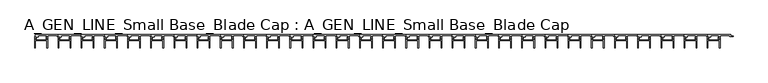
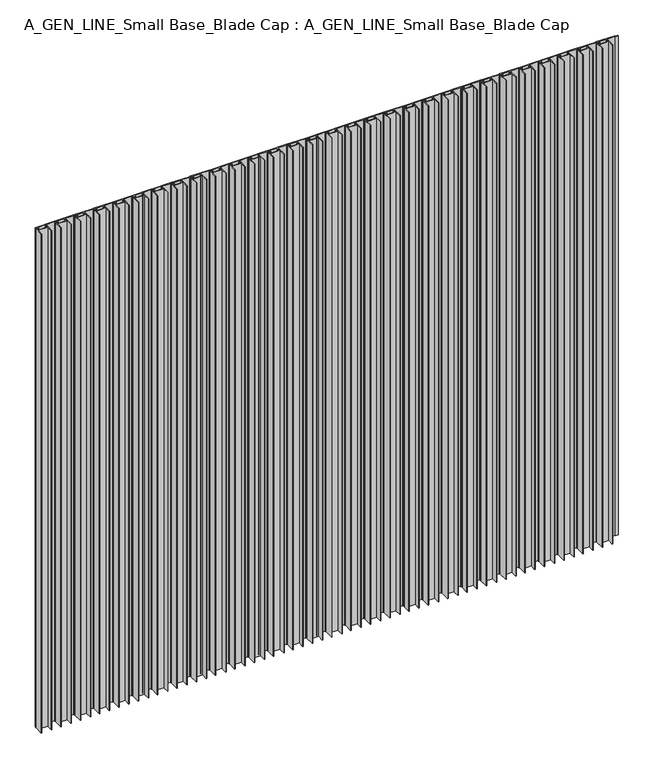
"""IFC4 building model written with IfcOpenShell, lengths in millimetres: proxy geometry, A_GEN_LINE_Small Base_Blade Cap : A_GEN_LINE_Small Base_Blade Cap."""

from ifc_helpers import new_model, si_unit, origin, origin_with_axes, place, context, project, spatial, polyline, outline, extrude, source, transform, mapped, element, save


def a_gen_line_small_base_blade_cap_a_gen_line_small_base_blade_af6c0902(model_context):
    return source(origin(), model_context, "Body", "SweptSolid", [
        extrude(outline(polyline([(1594.5994542, -32.0289818), (1594.5994542, -6.1), (1596.8241714, -6.1), (1596.8241714, -8.3419727), (1595.5177746, -8.7617834), (1595.5177746, -12.5079436), (1623.6811338, -12.5079436), (1623.6811338, -8.7374539), (1622.4504472, -8.3419727), (1622.4504472, -6.1), (1624.5994542, -6.1), (1624.5994542, -32.0289818), (1623.1994542, -32.0289818), (1623.1994542, -13.9079436), (1595.9994542, -13.9079436), (1595.9994542, -32.0289818), (1594.5994542, -32.0289818)])), origin_with_axes(), (0.0, 0.0, 1.0), 1500.0),
        extrude(outline(polyline([(1539.5989548, -32.0289818), (1539.5989548, -6.1), (1541.823672, -6.1), (1541.823672, -8.3419727), (1540.5172752, -8.7617834), (1540.5172752, -12.5079436), (1568.6806344, -12.5079436), (1568.6806344, -8.7374539), (1567.4499478, -8.3419727), (1567.4499478, -6.1), (1569.5989548, -6.1), (1569.5989548, -32.0289818), (1568.1989548, -32.0289818), (1568.1989548, -13.9079436), (1540.9989548, -13.9079436), (1540.9989548, -32.0289818), (1539.5989548, -32.0289818)])), origin_with_axes(), (0.0, 0.0, 1.0), 1500.0),
        extrude(outline(polyline([(1484.5984554, -32.0289818), (1484.5984554, -6.1), (1486.8231726, -6.1), (1486.8231726, -8.3419727), (1485.5167759, -8.7617834), (1485.5167759, -12.5079436), (1513.680135, -12.5079436), (1513.680135, -8.7374539), (1512.4494485, -8.3419727), (1512.4494485, -6.1), (1514.5984554, -6.1), (1514.5984554, -32.0289818), (1513.1984554, -32.0289818), (1513.1984554, -13.9079436), (1485.9984554, -13.9079436), (1485.9984554, -32.0289818), (1484.5984554, -32.0289818)])), origin_with_axes(), (0.0, 0.0, 1.0), 1500.0),
        extrude(outline(polyline([(1429.597956, -32.0289818), (1429.597956, -6.1), (1431.8226732, -6.1), (1431.8226732, -8.3419727), (1430.5162765, -8.7617834), (1430.5162765, -12.5079436), (1458.6796356, -12.5079436), (1458.6796356, -8.7374539), (1457.4489491, -8.3419727), (1457.4489491, -6.1), (1459.597956, -6.1), (1459.597956, -32.0289818), (1458.197956, -32.0289818), (1458.197956, -13.9079436), (1430.997956, -13.9079436), (1430.997956, -32.0289818), (1429.597956, -32.0289818)])), origin_with_axes(), (0.0, 0.0, 1.0), 1500.0),
        extrude(outline(polyline([(1374.5974566, -32.0289818), (1374.5974566, -6.1), (1376.8221738, -6.1), (1376.8221738, -8.3419727), (1375.5157771, -8.7617834), (1375.5157771, -12.5079436), (1403.6791362, -12.5079436), (1403.6791362, -8.7374539), (1402.4484497, -8.3419727), (1402.4484497, -6.1), (1404.5974566, -6.1), (1404.5974566, -32.0289818), (1403.1974566, -32.0289818), (1403.1974566, -13.9079436), (1375.9974566, -13.9079436), (1375.9974566, -32.0289818), (1374.5974566, -32.0289818)])), origin_with_axes(), (0.0, 0.0, 1.0), 1500.0),
        extrude(outline(polyline([(1319.5969572, -32.0289818), (1319.5969572, -6.1), (1321.8216744, -6.1), (1321.8216744, -8.3419727), (1320.5152777, -8.7617834), (1320.5152777, -12.5079436), (1348.6786368, -12.5079436), (1348.6786368, -8.7374539), (1347.4479503, -8.3419727), (1347.4479503, -6.1), (1349.5969572, -6.1), (1349.5969572, -32.0289818), (1348.1969572, -32.0289818), (1348.1969572, -13.9079436), (1320.9969572, -13.9079436), (1320.9969572, -32.0289818), (1319.5969572, -32.0289818)])), origin_with_axes(), (0.0, 0.0, 1.0), 1500.0),
        extrude(outline(polyline([(1264.5964579, -32.0289818), (1264.5964579, -6.1), (1266.821175, -6.1), (1266.821175, -8.3419727), (1265.5147783, -8.7617834), (1265.5147783, -12.5079436), (1293.6781374, -12.5079436), (1293.6781374, -8.7374539), (1292.4474509, -8.3419727), (1292.4474509, -6.1), (1294.5964579, -6.1), (1294.5964579, -32.0289818), (1293.1964579, -32.0289818), (1293.1964579, -13.9079436), (1265.9964579, -13.9079436), (1265.9964579, -32.0289818), (1264.5964579, -32.0289818)])), origin_with_axes(), (0.0, 0.0, 1.0), 1500.0),
        extrude(outline(polyline([(1209.5959585, -32.0289818), (1209.5959585, -6.1), (1211.8206756, -6.1), (1211.8206756, -8.3419727), (1210.5142789, -8.7617834), (1210.5142789, -12.5079436), (1238.677638, -12.5079436), (1238.677638, -8.7374539), (1237.4469515, -8.3419727), (1237.4469515, -6.1), (1239.5959585, -6.1), (1239.5959585, -32.0289818), (1238.1959585, -32.0289818), (1238.1959585, -13.9079436), (1210.9959585, -13.9079436), (1210.9959585, -32.0289818), (1209.5959585, -32.0289818)])), origin_with_axes(), (0.0, 0.0, 1.0), 1500.0),
        extrude(outline(polyline([(1595.0, 0.0), (1649.5728944, 0.0), (1649.5728944, -2.85), (1655.5728944, -2.85), (1655.5728944, -4.2), (1648.0545393, -4.2), (1648.0545393, -2.4), (1624.5849719, -2.4), (1624.5849719, -6.1021884), (1623.4699984, -6.1021884), (1621.8814326, -8.4994005), (1623.1433665, -8.4994005), (1623.1433665, -10.4818695), (1620.9408405, -10.4818695), (1620.9408405, -5.6343123), (1623.0399616, -2.4), (1602.2195527, -2.4), (1602.2195527, -6.1), (1598.2291033, -6.1), (1598.2291033, -10.4818695), (1596.0265772, -10.4818695), (1596.0265772, -8.4994005), (1597.2885111, -8.4994005), (1595.6999453, -6.1021884), (1594.6137598, -6.1021884), (1594.6137598, -4.9), (1601.0195527, -4.9), (1601.0195527, -2.7), (1595.0, -2.7), (1595.0, 0.0)])), origin_with_axes(), (0.0, 0.0, 1.0), 1500.0),
        extrude(outline(polyline([(1540.0, 0.0), (1594.5728944, 0.0), (1594.5728944, -2.85), (1600.5728944, -2.85), (1600.5728944, -4.2), (1593.0545393, -4.2), (1593.0545393, -2.4), (1569.5849719, -2.4), (1569.5849719, -6.1021884), (1568.4699984, -6.1021884), (1566.8814326, -8.4994005), (1568.1433665, -8.4994005), (1568.1433665, -10.4818695), (1565.9408405, -10.4818695), (1565.9408405, -5.6343123), (1568.0399616, -2.4), (1547.2195527, -2.4), (1547.2195527, -6.1), (1543.2291033, -6.1), (1543.2291033, -10.4818695), (1541.0265772, -10.4818695), (1541.0265772, -8.4994005), (1542.2885111, -8.4994005), (1540.6999453, -6.1021884), (1539.6137598, -6.1021884), (1539.6137598, -4.9), (1546.0195527, -4.9), (1546.0195527, -2.7), (1540.0, -2.7), (1540.0, 0.0)])), origin_with_axes(), (0.0, 0.0, 1.0), 1500.0),
        extrude(outline(polyline([(1485.0, 0.0), (1539.5728944, 0.0), (1539.5728944, -2.85), (1545.5728944, -2.85), (1545.5728944, -4.2), (1538.0545393, -4.2), (1538.0545393, -2.4), (1514.5849719, -2.4), (1514.5849719, -6.1021884), (1513.4699984, -6.1021884), (1511.8814326, -8.4994005), (1513.1433665, -8.4994005), (1513.1433665, -10.4818695), (1510.9408405, -10.4818695), (1510.9408405, -5.6343123), (1513.0399616, -2.4), (1492.2195527, -2.4), (1492.2195527, -6.1), (1488.2291033, -6.1), (1488.2291033, -10.4818695), (1486.0265772, -10.4818695), (1486.0265772, -8.4994005), (1487.2885111, -8.4994005), (1485.6999453, -6.1021884), (1484.6137598, -6.1021884), (1484.6137598, -4.9), (1491.0195527, -4.9), (1491.0195527, -2.7), (1485.0, -2.7), (1485.0, 0.0)])), origin_with_axes(), (0.0, 0.0, 1.0), 1500.0),
        extrude(outline(polyline([(1430.0, 0.0), (1484.5728944, 0.0), (1484.5728944, -2.85), (1490.5728944, -2.85), (1490.5728944, -4.2), (1483.0545393, -4.2), (1483.0545393, -2.4), (1459.5849719, -2.4), (1459.5849719, -6.1021884), (1458.4699984, -6.1021884), (1456.8814326, -8.4994005), (1458.1433665, -8.4994005), (1458.1433665, -10.4818695), (1455.9408405, -10.4818695), (1455.9408405, -5.6343123), (1458.0399616, -2.4), (1437.2195527, -2.4), (1437.2195527, -6.1), (1433.2291033, -6.1), (1433.2291033, -10.4818695), (1431.0265772, -10.4818695), (1431.0265772, -8.4994005), (1432.2885111, -8.4994005), (1430.6999453, -6.1021884), (1429.6137598, -6.1021884), (1429.6137598, -4.9), (1436.0195527, -4.9), (1436.0195527, -2.7), (1430.0, -2.7), (1430.0, 0.0)])), origin_with_axes(), (0.0, 0.0, 1.0), 1500.0),
        extrude(outline(polyline([(1375.0, 0.0), (1429.5728944, 0.0), (1429.5728944, -2.85), (1435.5728944, -2.85), (1435.5728944, -4.2), (1428.0545393, -4.2), (1428.0545393, -2.4), (1404.5849719, -2.4), (1404.5849719, -6.1021884), (1403.4699984, -6.1021884), (1401.8814326, -8.4994005), (1403.1433665, -8.4994005), (1403.1433665, -10.4818695), (1400.9408405, -10.4818695), (1400.9408405, -5.6343123), (1403.0399616, -2.4), (1382.2195527, -2.4), (1382.2195527, -6.1), (1378.2291033, -6.1), (1378.2291033, -10.4818695), (1376.0265772, -10.4818695), (1376.0265772, -8.4994005), (1377.2885111, -8.4994005), (1375.6999453, -6.1021884), (1374.6137598, -6.1021884), (1374.6137598, -4.9), (1381.0195527, -4.9), (1381.0195527, -2.7), (1375.0, -2.7), (1375.0, 0.0)])), origin_with_axes(), (0.0, 0.0, 1.0), 1500.0),
        extrude(outline(polyline([(1320.0, 0.0), (1374.5728944, 0.0), (1374.5728944, -2.85), (1380.5728944, -2.85), (1380.5728944, -4.2), (1373.0545393, -4.2), (1373.0545393, -2.4), (1349.5849719, -2.4), (1349.5849719, -6.1021884), (1348.4699984, -6.1021884), (1346.8814326, -8.4994005), (1348.1433665, -8.4994005), (1348.1433665, -10.4818695), (1345.9408405, -10.4818695), (1345.9408405, -5.6343123), (1348.0399616, -2.4), (1327.2195527, -2.4), (1327.2195527, -6.1), (1323.2291033, -6.1), (1323.2291033, -10.4818695), (1321.0265772, -10.4818695), (1321.0265772, -8.4994005), (1322.2885111, -8.4994005), (1320.6999453, -6.1021884), (1319.6137598, -6.1021884), (1319.6137598, -4.9), (1326.0195527, -4.9), (1326.0195527, -2.7), (1320.0, -2.7), (1320.0, 0.0)])), origin_with_axes(), (0.0, 0.0, 1.0), 1500.0),
        extrude(outline(polyline([(1265.0, 0.0), (1319.5728944, 0.0), (1319.5728944, -2.85), (1325.5728944, -2.85), (1325.5728944, -4.2), (1318.0545393, -4.2), (1318.0545393, -2.4), (1294.5849719, -2.4), (1294.5849719, -6.1021884), (1293.4699984, -6.1021884), (1291.8814326, -8.4994005), (1293.1433665, -8.4994005), (1293.1433665, -10.4818695), (1290.9408405, -10.4818695), (1290.9408405, -5.6343123), (1293.0399616, -2.4), (1272.2195527, -2.4), (1272.2195527, -6.1), (1268.2291033, -6.1), (1268.2291033, -10.4818695), (1266.0265772, -10.4818695), (1266.0265772, -8.4994005), (1267.2885111, -8.4994005), (1265.6999453, -6.1021884), (1264.6137598, -6.1021884), (1264.6137598, -4.9), (1271.0195527, -4.9), (1271.0195527, -2.7), (1265.0, -2.7), (1265.0, 0.0)])), origin_with_axes(), (0.0, 0.0, 1.0), 1500.0),
        extrude(outline(polyline([(1210.0, 0.0), (1264.5728944, 0.0), (1264.5728944, -2.85), (1270.5728944, -2.85), (1270.5728944, -4.2), (1263.0545393, -4.2), (1263.0545393, -2.4), (1239.5849719, -2.4), (1239.5849719, -6.1021884), (1238.4699984, -6.1021884), (1236.8814326, -8.4994005), (1238.1433665, -8.4994005), (1238.1433665, -10.4818695), (1235.9408405, -10.4818695), (1235.9408405, -5.6343123), (1238.0399616, -2.4), (1217.2195527, -2.4), (1217.2195527, -6.1), (1213.2291033, -6.1), (1213.2291033, -10.4818695), (1211.0265772, -10.4818695), (1211.0265772, -8.4994005), (1212.2885111, -8.4994005), (1210.6999453, -6.1021884), (1209.6137598, -6.1021884), (1209.6137598, -4.9), (1216.0195527, -4.9), (1216.0195527, -2.7), (1210.0, -2.7), (1210.0, 0.0)])), origin_with_axes(), (0.0, 0.0, 1.0), 1500.0),
        extrude(outline(polyline([(1154.5954591, -32.0289818), (1154.5954591, -6.1), (1156.8201762, -6.1), (1156.8201762, -8.3419727), (1155.5137795, -8.7617834), (1155.5137795, -12.5079436), (1183.6771386, -12.5079436), (1183.6771386, -8.7374539), (1182.4464521, -8.3419727), (1182.4464521, -6.1), (1184.5954591, -6.1), (1184.5954591, -32.0289818), (1183.1954591, -32.0289818), (1183.1954591, -13.9079436), (1155.9954591, -13.9079436), (1155.9954591, -32.0289818), (1154.5954591, -32.0289818)])), origin_with_axes(), (0.0, 0.0, 1.0), 1500.0),
        extrude(outline(polyline([(1099.5949597, -32.0289818), (1099.5949597, -6.1), (1101.8196768, -6.1), (1101.8196768, -8.3419727), (1100.5132801, -8.7617834), (1100.5132801, -12.5079436), (1128.6766392, -12.5079436), (1128.6766392, -8.7374539), (1127.4459527, -8.3419727), (1127.4459527, -6.1), (1129.5949597, -6.1), (1129.5949597, -32.0289818), (1128.1949597, -32.0289818), (1128.1949597, -13.9079436), (1100.9949597, -13.9079436), (1100.9949597, -32.0289818), (1099.5949597, -32.0289818)])), origin_with_axes(), (0.0, 0.0, 1.0), 1500.0),
        extrude(outline(polyline([(1044.5944603, -32.0289818), (1044.5944603, -6.1), (1046.8191775, -6.1), (1046.8191775, -8.3419727), (1045.5127807, -8.7617834), (1045.5127807, -12.5079436), (1073.6761399, -12.5079436), (1073.6761399, -8.7374539), (1072.4454533, -8.3419727), (1072.4454533, -6.1), (1074.5944603, -6.1), (1074.5944603, -32.0289818), (1073.1944603, -32.0289818), (1073.1944603, -13.9079436), (1045.9944603, -13.9079436), (1045.9944603, -32.0289818), (1044.5944603, -32.0289818)])), origin_with_axes(), (0.0, 0.0, 1.0), 1500.0),
        extrude(outline(polyline([(989.5939609, -32.0289818), (989.5939609, -6.1), (991.8186781, -6.1), (991.8186781, -8.3419727), (990.5122813, -8.7617834), (990.5122813, -12.5079436), (1018.6756405, -12.5079436), (1018.6756405, -8.7374539), (1017.4449539, -8.3419727), (1017.4449539, -6.1), (1019.5939609, -6.1), (1019.5939609, -32.0289818), (1018.1939609, -32.0289818), (1018.1939609, -13.9079436), (990.9939609, -13.9079436), (990.9939609, -32.0289818), (989.5939609, -32.0289818)])), origin_with_axes(), (0.0, 0.0, 1.0), 1500.0),
        extrude(outline(polyline([(934.5934615, -32.0289818), (934.5934615, -6.1), (936.8181787, -6.1), (936.8181787, -8.3419727), (935.5117819, -8.7617834), (935.5117819, -12.5079436), (963.6751411, -12.5079436), (963.6751411, -8.7374539), (962.4444546, -8.3419727), (962.4444546, -6.1), (964.5934615, -6.1), (964.5934615, -32.0289818), (963.1934615, -32.0289818), (963.1934615, -13.9079436), (935.9934615, -13.9079436), (935.9934615, -32.0289818), (934.5934615, -32.0289818)])), origin_with_axes(), (0.0, 0.0, 1.0), 1500.0),
        extrude(outline(polyline([(879.5929621, -32.0289818), (879.5929621, -6.1), (881.8176793, -6.1), (881.8176793, -8.3419727), (880.5112826, -8.7617834), (880.5112826, -12.5079436), (908.6746417, -12.5079436), (908.6746417, -8.7374539), (907.4439552, -8.3419727), (907.4439552, -6.1), (909.5929621, -6.1), (909.5929621, -32.0289818), (908.1929621, -32.0289818), (908.1929621, -13.9079436), (880.9929621, -13.9079436), (880.9929621, -32.0289818), (879.5929621, -32.0289818)])), origin_with_axes(), (0.0, 0.0, 1.0), 1500.0),
        extrude(outline(polyline([(824.5924627, -32.0289818), (824.5924627, -6.1), (826.8171799, -6.1), (826.8171799, -8.3419727), (825.5107832, -8.7617834), (825.5107832, -12.5079436), (853.6741423, -12.5079436), (853.6741423, -8.7374539), (852.4434558, -8.3419727), (852.4434558, -6.1), (854.5924627, -6.1), (854.5924627, -32.0289818), (853.1924627, -32.0289818), (853.1924627, -13.9079436), (825.9924627, -13.9079436), (825.9924627, -32.0289818), (824.5924627, -32.0289818)])), origin_with_axes(), (0.0, 0.0, 1.0), 1500.0),
        extrude(outline(polyline([(769.5919633, -32.0289818), (769.5919633, -6.1), (771.8166805, -6.1), (771.8166805, -8.3419727), (770.5102838, -8.7617834), (770.5102838, -12.5079436), (798.6736429, -12.5079436), (798.6736429, -8.7374539), (797.4429564, -8.3419727), (797.4429564, -6.1), (799.5919633, -6.1), (799.5919633, -32.0289818), (798.1919633, -32.0289818), (798.1919633, -13.9079436), (770.9919633, -13.9079436), (770.9919633, -32.0289818), (769.5919633, -32.0289818)])), origin_with_axes(), (0.0, 0.0, 1.0), 1500.0),
        extrude(outline(polyline([(714.5914639, -32.0289818), (714.5914639, -6.1), (716.8161811, -6.1), (716.8161811, -8.3419727), (715.5097844, -8.7617834), (715.5097844, -12.5079436), (743.6731435, -12.5079436), (743.6731435, -8.7374539), (742.442457, -8.3419727), (742.442457, -6.1), (744.5914639, -6.1), (744.5914639, -32.0289818), (743.1914639, -32.0289818), (743.1914639, -13.9079436), (715.9914639, -13.9079436), (715.9914639, -32.0289818), (714.5914639, -32.0289818)])), origin_with_axes(), (0.0, 0.0, 1.0), 1500.0),
        extrude(outline(polyline([(659.5909646, -32.0289818), (659.5909646, -6.1), (661.8156817, -6.1), (661.8156817, -8.3419727), (660.509285, -8.7617834), (660.509285, -12.5079436), (688.6726441, -12.5079436), (688.6726441, -8.7374539), (687.4419576, -8.3419727), (687.4419576, -6.1), (689.5909646, -6.1), (689.5909646, -32.0289818), (688.1909646, -32.0289818), (688.1909646, -13.9079436), (660.9909646, -13.9079436), (660.9909646, -32.0289818), (659.5909646, -32.0289818)])), origin_with_axes(), (0.0, 0.0, 1.0), 1500.0),
        extrude(outline(polyline([(604.5904652, -32.0289818), (604.5904652, -6.1), (606.8151823, -6.1), (606.8151823, -8.3419727), (605.5087856, -8.7617834), (605.5087856, -12.5079436), (633.6721447, -12.5079436), (633.6721447, -8.7374539), (632.4414582, -8.3419727), (632.4414582, -6.1), (634.5904652, -6.1), (634.5904652, -32.0289818), (633.1904652, -32.0289818), (633.1904652, -13.9079436), (605.9904652, -13.9079436), (605.9904652, -32.0289818), (604.5904652, -32.0289818)])), origin_with_axes(), (0.0, 0.0, 1.0), 1500.0),
        extrude(outline(polyline([(549.5899658, -32.0289818), (549.5899658, -6.1), (551.8146829, -6.1), (551.8146829, -8.3419727), (550.5082862, -8.7617834), (550.5082862, -12.5079436), (578.6716453, -12.5079436), (578.6716453, -8.7374539), (577.4409588, -8.3419727), (577.4409588, -6.1), (579.5899658, -6.1), (579.5899658, -32.0289818), (578.1899658, -32.0289818), (578.1899658, -13.9079436), (550.9899658, -13.9079436), (550.9899658, -32.0289818), (549.5899658, -32.0289818)])), origin_with_axes(), (0.0, 0.0, 1.0), 1500.0),
        extrude(outline(polyline([(494.5894664, -32.0289818), (494.5894664, -6.1), (496.8141835, -6.1), (496.8141835, -8.3419727), (495.5077868, -8.7617834), (495.5077868, -12.5079436), (523.671146, -12.5079436), (523.671146, -8.7374539), (522.4404594, -8.3419727), (522.4404594, -6.1), (524.5894664, -6.1), (524.5894664, -32.0289818), (523.1894664, -32.0289818), (523.1894664, -13.9079436), (495.9894664, -13.9079436), (495.9894664, -32.0289818), (494.5894664, -32.0289818)])), origin_with_axes(), (0.0, 0.0, 1.0), 1500.0),
        extrude(outline(polyline([(439.588967, -32.0289818), (439.588967, -6.1), (441.8136842, -6.1), (441.8136842, -8.3419727), (440.5072874, -8.7617834), (440.5072874, -12.5079436), (468.6706466, -12.5079436), (468.6706466, -8.7374539), (467.43996, -8.3419727), (467.43996, -6.1), (469.588967, -6.1), (469.588967, -32.0289818), (468.188967, -32.0289818), (468.188967, -13.9079436), (440.988967, -13.9079436), (440.988967, -32.0289818), (439.588967, -32.0289818)])), origin_with_axes(), (0.0, 0.0, 1.0), 1500.0),
        extrude(outline(polyline([(384.5884676, -32.0289818), (384.5884676, -6.1), (386.8131848, -6.1), (386.8131848, -8.3419727), (385.506788, -8.7617834), (385.506788, -12.5079436), (413.6701472, -12.5079436), (413.6701472, -8.7374539), (412.4394606, -8.3419727), (412.4394606, -6.1), (414.5884676, -6.1), (414.5884676, -32.0289818), (413.1884676, -32.0289818), (413.1884676, -13.9079436), (385.9884676, -13.9079436), (385.9884676, -32.0289818), (384.5884676, -32.0289818)])), origin_with_axes(), (0.0, 0.0, 1.0), 1500.0),
        extrude(outline(polyline([(1155.0, 0.0), (1209.5728944, 0.0), (1209.5728944, -2.85), (1215.5728944, -2.85), (1215.5728944, -4.2), (1208.0545393, -4.2), (1208.0545393, -2.4), (1184.5849719, -2.4), (1184.5849719, -6.1021884), (1183.4699984, -6.1021884), (1181.8814326, -8.4994005), (1183.1433665, -8.4994005), (1183.1433665, -10.4818695), (1180.9408405, -10.4818695), (1180.9408405, -5.6343123), (1183.0399616, -2.4), (1162.2195527, -2.4), (1162.2195527, -6.1), (1158.2291033, -6.1), (1158.2291033, -10.4818695), (1156.0265772, -10.4818695), (1156.0265772, -8.4994005), (1157.2885111, -8.4994005), (1155.6999453, -6.1021884), (1154.6137598, -6.1021884), (1154.6137598, -4.9), (1161.0195527, -4.9), (1161.0195527, -2.7), (1155.0, -2.7), (1155.0, 0.0)])), origin_with_axes(), (0.0, 0.0, 1.0), 1500.0),
        extrude(outline(polyline([(1100.0, 0.0), (1154.5728944, 0.0), (1154.5728944, -2.85), (1160.5728944, -2.85), (1160.5728944, -4.2), (1153.0545393, -4.2), (1153.0545393, -2.4), (1129.5849719, -2.4), (1129.5849719, -6.1021884), (1128.4699984, -6.1021884), (1126.8814326, -8.4994005), (1128.1433665, -8.4994005), (1128.1433665, -10.4818695), (1125.9408405, -10.4818695), (1125.9408405, -5.6343123), (1128.0399616, -2.4), (1107.2195527, -2.4), (1107.2195527, -6.1), (1103.2291033, -6.1), (1103.2291033, -10.4818695), (1101.0265772, -10.4818695), (1101.0265772, -8.4994005), (1102.2885111, -8.4994005), (1100.6999453, -6.1021884), (1099.6137598, -6.1021884), (1099.6137598, -4.9), (1106.0195527, -4.9), (1106.0195527, -2.7), (1100.0, -2.7), (1100.0, 0.0)])), origin_with_axes(), (0.0, 0.0, 1.0), 1500.0),
        extrude(outline(polyline([(1045.0, 0.0), (1099.5728944, 0.0), (1099.5728944, -2.85), (1105.5728944, -2.85), (1105.5728944, -4.2), (1098.0545393, -4.2), (1098.0545393, -2.4), (1074.5849719, -2.4), (1074.5849719, -6.1021884), (1073.4699984, -6.1021884), (1071.8814326, -8.4994005), (1073.1433665, -8.4994005), (1073.1433665, -10.4818695), (1070.9408405, -10.4818695), (1070.9408405, -5.6343123), (1073.0399616, -2.4), (1052.2195527, -2.4), (1052.2195527, -6.1), (1048.2291033, -6.1), (1048.2291033, -10.4818695), (1046.0265772, -10.4818695), (1046.0265772, -8.4994005), (1047.2885111, -8.4994005), (1045.6999453, -6.1021884), (1044.6137598, -6.1021884), (1044.6137598, -4.9), (1051.0195527, -4.9), (1051.0195527, -2.7), (1045.0, -2.7), (1045.0, 0.0)])), origin_with_axes(), (0.0, 0.0, 1.0), 1500.0),
        extrude(outline(polyline([(990.0, 0.0), (1044.5728944, 0.0), (1044.5728944, -2.85), (1050.5728944, -2.85), (1050.5728944, -4.2), (1043.0545393, -4.2), (1043.0545393, -2.4), (1019.5849719, -2.4), (1019.5849719, -6.1021884), (1018.4699984, -6.1021884), (1016.8814326, -8.4994005), (1018.1433665, -8.4994005), (1018.1433665, -10.4818695), (1015.9408405, -10.4818695), (1015.9408405, -5.6343123), (1018.0399616, -2.4), (997.2195527, -2.4), (997.2195527, -6.1), (993.2291033, -6.1), (993.2291033, -10.4818695), (991.0265772, -10.4818695), (991.0265772, -8.4994005), (992.2885111, -8.4994005), (990.6999453, -6.1021884), (989.6137598, -6.1021884), (989.6137598, -4.9), (996.0195527, -4.9), (996.0195527, -2.7), (990.0, -2.7), (990.0, 0.0)])), origin_with_axes(), (0.0, 0.0, 1.0), 1500.0),
        extrude(outline(polyline([(935.0, 0.0), (989.5728944, 0.0), (989.5728944, -2.85), (995.5728944, -2.85), (995.5728944, -4.2), (988.0545393, -4.2), (988.0545393, -2.4), (964.5849719, -2.4), (964.5849719, -6.1021884), (963.4699984, -6.1021884), (961.8814326, -8.4994005), (963.1433665, -8.4994005), (963.1433665, -10.4818695), (960.9408405, -10.4818695), (960.9408405, -5.6343123), (963.0399616, -2.4), (942.2195527, -2.4), (942.2195527, -6.1), (938.2291033, -6.1), (938.2291033, -10.4818695), (936.0265772, -10.4818695), (936.0265772, -8.4994005), (937.2885111, -8.4994005), (935.6999453, -6.1021884), (934.6137598, -6.1021884), (934.6137598, -4.9), (941.0195527, -4.9), (941.0195527, -2.7), (935.0, -2.7), (935.0, 0.0)])), origin_with_axes(), (0.0, 0.0, 1.0), 1500.0),
        extrude(outline(polyline([(880.0, 0.0), (934.5728944, 0.0), (934.5728944, -2.85), (940.5728944, -2.85), (940.5728944, -4.2), (933.0545393, -4.2), (933.0545393, -2.4), (909.5849719, -2.4), (909.5849719, -6.1021884), (908.4699984, -6.1021884), (906.8814326, -8.4994005), (908.1433665, -8.4994005), (908.1433665, -10.4818695), (905.9408405, -10.4818695), (905.9408405, -5.6343123), (908.0399616, -2.4), (887.2195527, -2.4), (887.2195527, -6.1), (883.2291033, -6.1), (883.2291033, -10.4818695), (881.0265772, -10.4818695), (881.0265772, -8.4994005), (882.2885111, -8.4994005), (880.6999453, -6.1021884), (879.6137598, -6.1021884), (879.6137598, -4.9), (886.0195527, -4.9), (886.0195527, -2.7), (880.0, -2.7), (880.0, 0.0)])), origin_with_axes(), (0.0, 0.0, 1.0), 1500.0),
        extrude(outline(polyline([(825.0, 0.0), (879.5728944, 0.0), (879.5728944, -2.85), (885.5728944, -2.85), (885.5728944, -4.2), (878.0545393, -4.2), (878.0545393, -2.4), (854.5849719, -2.4), (854.5849719, -6.1021884), (853.4699984, -6.1021884), (851.8814326, -8.4994005), (853.1433665, -8.4994005), (853.1433665, -10.4818695), (850.9408405, -10.4818695), (850.9408405, -5.6343123), (853.0399616, -2.4), (832.2195527, -2.4), (832.2195527, -6.1), (828.2291033, -6.1), (828.2291033, -10.4818695), (826.0265772, -10.4818695), (826.0265772, -8.4994005), (827.2885111, -8.4994005), (825.6999453, -6.1021884), (824.6137598, -6.1021884), (824.6137598, -4.9), (831.0195527, -4.9), (831.0195527, -2.7), (825.0, -2.7), (825.0, 0.0)])), origin_with_axes(), (0.0, 0.0, 1.0), 1500.0),
        extrude(outline(polyline([(770.0, 0.0), (824.5728944, 0.0), (824.5728944, -2.85), (830.5728944, -2.85), (830.5728944, -4.2), (823.0545393, -4.2), (823.0545393, -2.4), (799.5849719, -2.4), (799.5849719, -6.1021884), (798.4699984, -6.1021884), (796.8814326, -8.4994005), (798.1433665, -8.4994005), (798.1433665, -10.4818695), (795.9408405, -10.4818695), (795.9408405, -5.6343123), (798.0399616, -2.4), (777.2195527, -2.4), (777.2195527, -6.1), (773.2291033, -6.1), (773.2291033, -10.4818695), (771.0265772, -10.4818695), (771.0265772, -8.4994005), (772.2885111, -8.4994005), (770.6999453, -6.1021884), (769.6137598, -6.1021884), (769.6137598, -4.9), (776.0195527, -4.9), (776.0195527, -2.7), (770.0, -2.7), (770.0, 0.0)])), origin_with_axes(), (0.0, 0.0, 1.0), 1500.0),
        extrude(outline(polyline([(715.0, 0.0), (769.5728944, 0.0), (769.5728944, -2.85), (775.5728944, -2.85), (775.5728944, -4.2), (768.0545393, -4.2), (768.0545393, -2.4), (744.5849719, -2.4), (744.5849719, -6.1021884), (743.4699984, -6.1021884), (741.8814326, -8.4994005), (743.1433665, -8.4994005), (743.1433665, -10.4818695), (740.9408405, -10.4818695), (740.9408405, -5.6343123), (743.0399616, -2.4), (722.2195527, -2.4), (722.2195527, -6.1), (718.2291033, -6.1), (718.2291033, -10.4818695), (716.0265772, -10.4818695), (716.0265772, -8.4994005), (717.2885111, -8.4994005), (715.6999453, -6.1021884), (714.6137598, -6.1021884), (714.6137598, -4.9), (721.0195527, -4.9), (721.0195527, -2.7), (715.0, -2.7), (715.0, 0.0)])), origin_with_axes(), (0.0, 0.0, 1.0), 1500.0),
        extrude(outline(polyline([(660.0, 0.0), (714.5728944, 0.0), (714.5728944, -2.85), (720.5728944, -2.85), (720.5728944, -4.2), (713.0545393, -4.2), (713.0545393, -2.4), (689.5849719, -2.4), (689.5849719, -6.1021884), (688.4699984, -6.1021884), (686.8814326, -8.4994005), (688.1433665, -8.4994005), (688.1433665, -10.4818695), (685.9408405, -10.4818695), (685.9408405, -5.6343123), (688.0399616, -2.4), (667.2195527, -2.4), (667.2195527, -6.1), (663.2291033, -6.1), (663.2291033, -10.4818695), (661.0265772, -10.4818695), (661.0265772, -8.4994005), (662.2885111, -8.4994005), (660.6999453, -6.1021884), (659.6137598, -6.1021884), (659.6137598, -4.9), (666.0195527, -4.9), (666.0195527, -2.7), (660.0, -2.7), (660.0, 0.0)])), origin_with_axes(), (0.0, 0.0, 1.0), 1500.0),
        extrude(outline(polyline([(605.0, 0.0), (659.5728944, 0.0), (659.5728944, -2.85), (665.5728944, -2.85), (665.5728944, -4.2), (658.0545393, -4.2), (658.0545393, -2.4), (634.5849719, -2.4), (634.5849719, -6.1021884), (633.4699984, -6.1021884), (631.8814326, -8.4994005), (633.1433665, -8.4994005), (633.1433665, -10.4818695), (630.9408405, -10.4818695), (630.9408405, -5.6343123), (633.0399616, -2.4), (612.2195527, -2.4), (612.2195527, -6.1), (608.2291033, -6.1), (608.2291033, -10.4818695), (606.0265772, -10.4818695), (606.0265772, -8.4994005), (607.2885111, -8.4994005), (605.6999453, -6.1021884), (604.6137598, -6.1021884), (604.6137598, -4.9), (611.0195527, -4.9), (611.0195527, -2.7), (605.0, -2.7), (605.0, 0.0)])), origin_with_axes(), (0.0, 0.0, 1.0), 1500.0),
        extrude(outline(polyline([(550.0, 0.0), (604.5728944, 0.0), (604.5728944, -2.85), (610.5728944, -2.85), (610.5728944, -4.2), (603.0545393, -4.2), (603.0545393, -2.4), (579.5849719, -2.4), (579.5849719, -6.1021884), (578.4699984, -6.1021884), (576.8814326, -8.4994005), (578.1433665, -8.4994005), (578.1433665, -10.4818695), (575.9408405, -10.4818695), (575.9408405, -5.6343123), (578.0399616, -2.4), (557.2195527, -2.4), (557.2195527, -6.1), (553.2291033, -6.1), (553.2291033, -10.4818695), (551.0265772, -10.4818695), (551.0265772, -8.4994005), (552.2885111, -8.4994005), (550.6999453, -6.1021884), (549.6137598, -6.1021884), (549.6137598, -4.9), (556.0195527, -4.9), (556.0195527, -2.7), (550.0, -2.7), (550.0, 0.0)])), origin_with_axes(), (0.0, 0.0, 1.0), 1500.0),
        extrude(outline(polyline([(495.0, 0.0), (549.5728944, 0.0), (549.5728944, -2.85), (555.5728944, -2.85), (555.5728944, -4.2), (548.0545393, -4.2), (548.0545393, -2.4), (524.5849719, -2.4), (524.5849719, -6.1021884), (523.4699984, -6.1021884), (521.8814326, -8.4994005), (523.1433665, -8.4994005), (523.1433665, -10.4818695), (520.9408405, -10.4818695), (520.9408405, -5.6343123), (523.0399616, -2.4), (502.2195527, -2.4), (502.2195527, -6.1), (498.2291033, -6.1), (498.2291033, -10.4818695), (496.0265772, -10.4818695), (496.0265772, -8.4994005), (497.2885111, -8.4994005), (495.6999453, -6.1021884), (494.6137598, -6.1021884), (494.6137598, -4.9), (501.0195527, -4.9), (501.0195527, -2.7), (495.0, -2.7), (495.0, 0.0)])), origin_with_axes(), (0.0, 0.0, 1.0), 1500.0),
        extrude(outline(polyline([(440.0, 0.0), (494.5728944, 0.0), (494.5728944, -2.85), (500.5728944, -2.85), (500.5728944, -4.2), (493.0545393, -4.2), (493.0545393, -2.4), (469.5849719, -2.4), (469.5849719, -6.1021884), (468.4699984, -6.1021884), (466.8814326, -8.4994005), (468.1433665, -8.4994005), (468.1433665, -10.4818695), (465.9408405, -10.4818695), (465.9408405, -5.6343123), (468.0399616, -2.4), (447.2195527, -2.4), (447.2195527, -6.1), (443.2291033, -6.1), (443.2291033, -10.4818695), (441.0265772, -10.4818695), (441.0265772, -8.4994005), (442.2885111, -8.4994005), (440.6999453, -6.1021884), (439.6137598, -6.1021884), (439.6137598, -4.9), (446.0195527, -4.9), (446.0195527, -2.7), (440.0, -2.7), (440.0, 0.0)])), origin_with_axes(), (0.0, 0.0, 1.0), 1500.0),
        extrude(outline(polyline([(385.0, 0.0), (439.5728944, 0.0), (439.5728944, -2.85), (445.5728944, -2.85), (445.5728944, -4.2), (438.0545393, -4.2), (438.0545393, -2.4), (414.5849719, -2.4), (414.5849719, -6.1021884), (413.4699984, -6.1021884), (411.8814326, -8.4994005), (413.1433665, -8.4994005), (413.1433665, -10.4818695), (410.9408405, -10.4818695), (410.9408405, -5.6343123), (413.0399616, -2.4), (392.2195527, -2.4), (392.2195527, -6.1), (388.2291033, -6.1), (388.2291033, -10.4818695), (386.0265772, -10.4818695), (386.0265772, -8.4994005), (387.2885111, -8.4994005), (385.6999453, -6.1021884), (384.6137598, -6.1021884), (384.6137598, -4.9), (391.0195527, -4.9), (391.0195527, -2.7), (385.0, -2.7), (385.0, 0.0)])), origin_with_axes(), (0.0, 0.0, 1.0), 1500.0),
        extrude(outline(polyline([(329.5879682, -32.0289818), (329.5879682, -6.1), (331.8126854, -6.1), (331.8126854, -8.3419727), (330.5062887, -8.7617834), (330.5062887, -12.5079436), (358.6696478, -12.5079436), (358.6696478, -8.7374539), (357.4389613, -8.3419727), (357.4389613, -6.1), (359.5879682, -6.1), (359.5879682, -32.0289818), (358.1879682, -32.0289818), (358.1879682, -13.9079436), (330.9879682, -13.9079436), (330.9879682, -32.0289818), (329.5879682, -32.0289818)])), origin_with_axes(), (0.0, 0.0, 1.0), 1500.0),
        extrude(outline(polyline([(274.5874688, -32.0289818), (274.5874688, -6.1), (276.812186, -6.1), (276.812186, -8.3419727), (275.5057893, -8.7617834), (275.5057893, -12.5079436), (303.6691484, -12.5079436), (303.6691484, -8.7374539), (302.4384619, -8.3419727), (302.4384619, -6.1), (304.5874688, -6.1), (304.5874688, -32.0289818), (303.1874688, -32.0289818), (303.1874688, -13.9079436), (275.9874688, -13.9079436), (275.9874688, -32.0289818), (274.5874688, -32.0289818)])), origin_with_axes(), (0.0, 0.0, 1.0), 1500.0),
        extrude(outline(polyline([(219.5869694, -32.0289818), (219.5869694, -6.1), (221.8116866, -6.1), (221.8116866, -8.3419727), (220.5052899, -8.7617834), (220.5052899, -12.5079436), (248.668649, -12.5079436), (248.668649, -8.7374539), (247.4379625, -8.3419727), (247.4379625, -6.1), (249.5869694, -6.1), (249.5869694, -32.0289818), (248.1869694, -32.0289818), (248.1869694, -13.9079436), (220.9869694, -13.9079436), (220.9869694, -32.0289818), (219.5869694, -32.0289818)])), origin_with_axes(), (0.0, 0.0, 1.0), 1500.0),
        extrude(outline(polyline([(164.58647, -32.0289818), (164.58647, -6.1), (166.8111872, -6.1), (166.8111872, -8.3419727), (165.5047905, -8.7617834), (165.5047905, -12.5079436), (193.6681496, -12.5079436), (193.6681496, -8.7374539), (192.4374631, -8.3419727), (192.4374631, -6.1), (194.58647, -6.1), (194.58647, -32.0289818), (193.18647, -32.0289818), (193.18647, -13.9079436), (165.98647, -13.9079436), (165.98647, -32.0289818), (164.58647, -32.0289818)])), origin_with_axes(), (0.0, 0.0, 1.0), 1500.0),
        extrude(outline(polyline([(109.5859707, -32.0289818), (109.5859707, -6.1), (111.8106878, -6.1), (111.8106878, -8.3419727), (110.5042911, -8.7617834), (110.5042911, -12.5079436), (138.6676502, -12.5079436), (138.6676502, -8.7374539), (137.4369637, -8.3419727), (137.4369637, -6.1), (139.5859707, -6.1), (139.5859707, -32.0289818), (138.1859707, -32.0289818), (138.1859707, -13.9079436), (110.9859707, -13.9079436), (110.9859707, -32.0289818), (109.5859707, -32.0289818)])), origin_with_axes(), (0.0, 0.0, 1.0), 1500.0),
        extrude(outline(polyline([(54.5854713, -32.0289818), (54.5854713, -6.1), (56.8101884, -6.1), (56.8101884, -8.3419727), (55.5037917, -8.7617834), (55.5037917, -12.5079436), (83.6671508, -12.5079436), (83.6671508, -8.7374539), (82.4364643, -8.3419727), (82.4364643, -6.1), (84.5854713, -6.1), (84.5854713, -32.0289818), (83.1854713, -32.0289818), (83.1854713, -13.9079436), (55.9854713, -13.9079436), (55.9854713, -32.0289818), (54.5854713, -32.0289818)])), origin_with_axes(), (0.0, 0.0, 1.0), 1500.0),
        extrude(outline(polyline([(-0.4150281, -32.0289818), (-0.4150281, -6.1), (1.809689, -6.1), (1.809689, -8.3419727), (0.5032923, -8.7617834), (0.5032923, -12.5079436), (28.6666514, -12.5079436), (28.6666514, -8.7374539), (27.4359649, -8.3419727), (27.4359649, -6.1), (29.5849719, -6.1), (29.5849719, -32.0289818), (28.1849719, -32.0289818), (28.1849719, -13.9079436), (0.9849719, -13.9079436), (0.9849719, -32.0289818), (-0.4150281, -32.0289818)])), origin_with_axes(), (0.0, 0.0, 1.0), 1500.0),
        extrude(outline(polyline([(330.0, 0.0), (384.5728944, 0.0), (384.5728944, -2.85), (390.5728944, -2.85), (390.5728944, -4.2), (383.0545393, -4.2), (383.0545393, -2.4), (359.5849719, -2.4), (359.5849719, -6.1021884), (358.4699984, -6.1021884), (356.8814326, -8.4994005), (358.1433665, -8.4994005), (358.1433665, -10.4818695), (355.9408405, -10.4818695), (355.9408405, -5.6343123), (358.0399616, -2.4), (337.2195527, -2.4), (337.2195527, -6.1), (333.2291033, -6.1), (333.2291033, -10.4818695), (331.0265772, -10.4818695), (331.0265772, -8.4994005), (332.2885111, -8.4994005), (330.6999453, -6.1021884), (329.6137598, -6.1021884), (329.6137598, -4.9), (336.0195527, -4.9), (336.0195527, -2.7), (330.0, -2.7), (330.0, 0.0)])), origin_with_axes(), (0.0, 0.0, 1.0), 1500.0),
        extrude(outline(polyline([(275.0, 0.0), (329.5728944, 0.0), (329.5728944, -2.85), (335.5728944, -2.85), (335.5728944, -4.2), (328.0545393, -4.2), (328.0545393, -2.4), (304.5849719, -2.4), (304.5849719, -6.1021884), (303.4699984, -6.1021884), (301.8814326, -8.4994005), (303.1433665, -8.4994005), (303.1433665, -10.4818695), (300.9408405, -10.4818695), (300.9408405, -5.6343123), (303.0399616, -2.4), (282.2195527, -2.4), (282.2195527, -6.1), (278.2291033, -6.1), (278.2291033, -10.4818695), (276.0265772, -10.4818695), (276.0265772, -8.4994005), (277.2885111, -8.4994005), (275.6999453, -6.1021884), (274.6137598, -6.1021884), (274.6137598, -4.9), (281.0195527, -4.9), (281.0195527, -2.7), (275.0, -2.7), (275.0, 0.0)])), origin_with_axes(), (0.0, 0.0, 1.0), 1500.0),
        extrude(outline(polyline([(220.0, 0.0), (274.5728944, 0.0), (274.5728944, -2.85), (280.5728944, -2.85), (280.5728944, -4.2), (273.0545393, -4.2), (273.0545393, -2.4), (249.5849719, -2.4), (249.5849719, -6.1021884), (248.4699984, -6.1021884), (246.8814326, -8.4994005), (248.1433665, -8.4994005), (248.1433665, -10.4818695), (245.9408405, -10.4818695), (245.9408405, -5.6343123), (248.0399616, -2.4), (227.2195527, -2.4), (227.2195527, -6.1), (223.2291033, -6.1), (223.2291033, -10.4818695), (221.0265772, -10.4818695), (221.0265772, -8.4994005), (222.2885111, -8.4994005), (220.6999453, -6.1021884), (219.6137598, -6.1021884), (219.6137598, -4.9), (226.0195527, -4.9), (226.0195527, -2.7), (220.0, -2.7), (220.0, 0.0)])), origin_with_axes(), (0.0, 0.0, 1.0), 1500.0),
        extrude(outline(polyline([(165.0, 0.0), (219.5728944, 0.0), (219.5728944, -2.85), (225.5728944, -2.85), (225.5728944, -4.2), (218.0545393, -4.2), (218.0545393, -2.4), (194.5849719, -2.4), (194.5849719, -6.1021884), (193.4699984, -6.1021884), (191.8814326, -8.4994005), (193.1433665, -8.4994005), (193.1433665, -10.4818695), (190.9408405, -10.4818695), (190.9408405, -5.6343123), (193.0399616, -2.4), (172.2195527, -2.4), (172.2195527, -6.1), (168.2291033, -6.1), (168.2291033, -10.4818695), (166.0265772, -10.4818695), (166.0265772, -8.4994005), (167.2885111, -8.4994005), (165.6999453, -6.1021884), (164.6137598, -6.1021884), (164.6137598, -4.9), (171.0195527, -4.9), (171.0195527, -2.7), (165.0, -2.7), (165.0, 0.0)])), origin_with_axes(), (0.0, 0.0, 1.0), 1500.0),
        extrude(outline(polyline([(110.0, 0.0), (164.5728944, 0.0), (164.5728944, -2.85), (170.5728944, -2.85), (170.5728944, -4.2), (163.0545393, -4.2), (163.0545393, -2.4), (139.5849719, -2.4), (139.5849719, -6.1021884), (138.4699984, -6.1021884), (136.8814326, -8.4994005), (138.1433665, -8.4994005), (138.1433665, -10.4818695), (135.9408405, -10.4818695), (135.9408405, -5.6343123), (138.0399616, -2.4), (117.2195527, -2.4), (117.2195527, -6.1), (113.2291033, -6.1), (113.2291033, -10.4818695), (111.0265772, -10.4818695), (111.0265772, -8.4994005), (112.2885111, -8.4994005), (110.6999453, -6.1021884), (109.6137598, -6.1021884), (109.6137598, -4.9), (116.0195527, -4.9), (116.0195527, -2.7), (110.0, -2.7), (110.0, 0.0)])), origin_with_axes(), (0.0, 0.0, 1.0), 1500.0),
        extrude(outline(polyline([(55.0, 0.0), (109.5728944, 0.0), (109.5728944, -2.85), (115.5728944, -2.85), (115.5728944, -4.2), (108.0545393, -4.2), (108.0545393, -2.4), (84.5849719, -2.4), (84.5849719, -6.1021884), (83.4699984, -6.1021884), (81.8814326, -8.4994005), (83.1433665, -8.4994005), (83.1433665, -10.4818695), (80.9408405, -10.4818695), (80.9408405, -5.6343123), (83.0399616, -2.4), (62.2195527, -2.4), (62.2195527, -6.1), (58.2291033, -6.1), (58.2291033, -10.4818695), (56.0265772, -10.4818695), (56.0265772, -8.4994005), (57.2885111, -8.4994005), (55.6999453, -6.1021884), (54.6137598, -6.1021884), (54.6137598, -4.9), (61.0195527, -4.9), (61.0195527, -2.7), (55.0, -2.7), (55.0, 0.0)])), origin_with_axes(), (0.0, 0.0, 1.0), 1500.0),
        extrude(outline(polyline([(0.0, 0.0), (54.5728944, 0.0), (54.5728944, -2.85), (60.5728944, -2.85), (60.5728944, -4.2), (53.0545393, -4.2), (53.0545393, -2.4), (29.5849719, -2.4), (29.5849719, -6.1021884), (28.4699984, -6.1021884), (26.8814326, -8.4994005), (28.1433665, -8.4994005), (28.1433665, -10.4818695), (25.9408405, -10.4818695), (25.9408405, -5.6343123), (28.0399616, -2.4), (7.2195527, -2.4), (7.2195527, -6.1), (3.2291033, -6.1), (3.2291033, -10.4818695), (1.0265772, -10.4818695), (1.0265772, -8.4994005), (2.2885111, -8.4994005), (0.6999453, -6.1021884), (-0.3862402, -6.1021884), (-0.3862402, -4.9), (6.0195527, -4.9), (6.0195527, -2.7), (0.0, -2.7), (0.0, 0.0)])), origin_with_axes(), (0.0, 0.0, 1.0), 1500.0),
    ])


if __name__ == "__main__":
    model = new_model("IFC4")
    model_context = context("Model", 3, world=origin())
    ifc_project = project(units=[si_unit("LENGTHUNIT", "METRE", prefix="MILLI")], contexts=[model_context])
    site = spatial("IfcSite", under=ifc_project)
    building = spatial("IfcBuilding", under=site)
    placement = place(None, origin())
    a_gen_line_small_base_blade_cap_a_gen_line_small_base_blade_shape = a_gen_line_small_base_blade_cap_a_gen_line_small_base_blade_af6c0902(model_context)
    element("IfcBuildingElementProxy", 1, Name="A_GEN_LINE_Small Base_Blade Cap : A_GEN_LINE_Small Base_Blade Cap", ObjectType="A_GEN_LINE_Small Base_Blade Cap : A_GEN_LINE_Small Base_Blade Cap", at=placement, inside=building, context=model_context, shape_type="MappedRepresentation", body=[
        mapped(a_gen_line_small_base_blade_cap_a_gen_line_small_base_blade_shape, transform((0.0, 0.0, 0.0), x_axis=(1.0, 0.0, 0.0), y_axis=(0.0, 1.0, 0.0), z_axis=(0.0, 0.0, 1.0))),
    ])
    save(model, "model.ifc")
